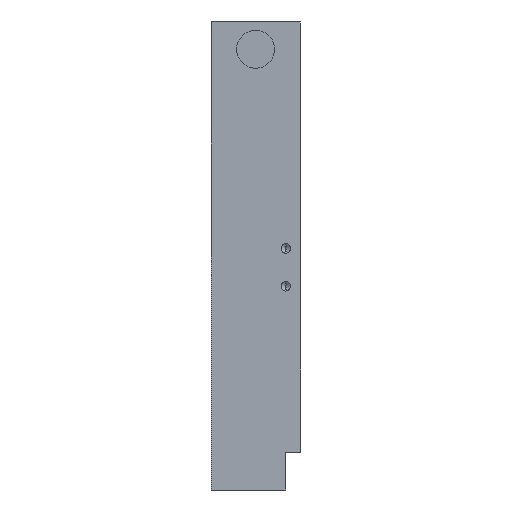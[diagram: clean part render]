
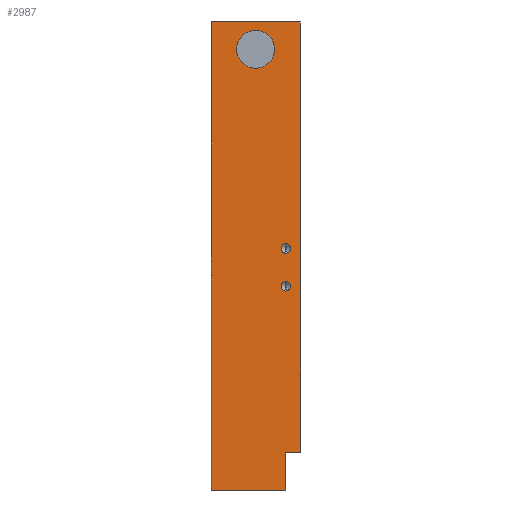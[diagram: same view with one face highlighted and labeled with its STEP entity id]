
A CAD part, left-side view. The second image highlights one B-rep face of the part: STEP entity #2987.
In plain terms, the highlighted planar face has unit normal (-1, 0, 0).
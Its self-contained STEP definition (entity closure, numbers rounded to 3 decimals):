
#70 = VERTEX_POINT ( 'NONE', #4854 ) ;
#98 = VECTOR ( 'NONE', #898, 1000. ) ;
#103 = ORIENTED_EDGE ( 'NONE', *, *, #2353, .F. ) ;
#185 = CARTESIAN_POINT ( 'NONE',  ( -269., 11.95, 54.55 ) ) ;
#286 = VERTEX_POINT ( 'NONE', #2936 ) ;
#294 = EDGE_CURVE ( 'NONE', #2896, #70, #3330, .T. ) ;
#345 = DIRECTION ( 'NONE',  ( 0., 0., -1. ) ) ;
#370 = DIRECTION ( 'NONE',  ( -1., 0., 0. ) ) ;
#426 = DIRECTION ( 'NONE',  ( 0., -1., 0. ) ) ;
#515 = AXIS2_PLACEMENT_3D ( 'NONE', #5807, #1622, #4234 ) ;
#575 = CARTESIAN_POINT ( 'NONE',  ( -269., 0.2, 61.75 ) ) ;
#680 = ORIENTED_EDGE ( 'NONE', *, *, #5942, .F. ) ;
#817 = EDGE_CURVE ( 'NONE', #5252, #5286, #5142, .T. ) ;
#822 = DIRECTION ( 'NONE',  ( 0., 0., -1. ) ) ;
#870 = ORIENTED_EDGE ( 'NONE', *, *, #6086, .F. ) ;
#878 = VERTEX_POINT ( 'NONE', #5158 ) ;
#898 = DIRECTION ( 'NONE',  ( 0., 0., 1. ) ) ;
#921 = LINE ( 'NONE', #575, #3284 ) ;
#928 = CARTESIAN_POINT ( 'NONE',  ( -269., 0.2, 45.75 ) ) ;
#987 = EDGE_CURVE ( 'NONE', #2896, #2168, #4418, .T. ) ;
#992 = VECTOR ( 'NONE', #1877, 1000. ) ;
#1071 = EDGE_CURVE ( 'NONE', #1761, #2468, #2041, .T. ) ;
#1114 = PLANE ( 'NONE',  #515 ) ;
#1146 = EDGE_CURVE ( 'NONE', #1761, #2168, #2371, .T. ) ;
#1251 = VERTEX_POINT ( 'NONE', #3650 ) ;
#1313 = CARTESIAN_POINT ( 'NONE',  ( -269., 4., -61.75 ) ) ;
#1575 = AXIS2_PLACEMENT_3D ( 'NONE', #2583, #2134, #4207 ) ;
#1584 = FACE_BOUND ( 'NONE', #3682, .T. ) ;
#1595 = ORIENTED_EDGE ( 'NONE', *, *, #5721, .F. ) ;
#1622 = DIRECTION ( 'NONE',  ( 1., 0., 0. ) ) ;
#1761 = VERTEX_POINT ( 'NONE', #3618 ) ;
#1789 = CARTESIAN_POINT ( 'NONE',  ( -269., 0., 45.75 ) ) ;
#1877 = DIRECTION ( 'NONE',  ( 0., -1., 0. ) ) ;
#1989 = CARTESIAN_POINT ( 'NONE',  ( -269., 4., 0.75 ) ) ;
#2041 = LINE ( 'NONE', #6604, #98 ) ;
#2108 = AXIS2_PLACEMENT_3D ( 'NONE', #4123, #3599, #3026 ) ;
#2134 = DIRECTION ( 'NONE',  ( -1., 0., 0. ) ) ;
#2168 = VERTEX_POINT ( 'NONE', #2510 ) ;
#2353 = EDGE_CURVE ( 'NONE', #3846, #1251, #5636, .T. ) ;
#2371 = LINE ( 'NONE', #2971, #992 ) ;
#2413 = CARTESIAN_POINT ( 'NONE',  ( -269., 23.7, 61.75 ) ) ;
#2468 = VERTEX_POINT ( 'NONE', #2413 ) ;
#2510 = CARTESIAN_POINT ( 'NONE',  ( -269., 4., -61.75 ) ) ;
#2583 = CARTESIAN_POINT ( 'NONE',  ( -269., 4., 2. ) ) ;
#2680 = CARTESIAN_POINT ( 'NONE',  ( -269., 4., -51.75 ) ) ;
#2896 = VERTEX_POINT ( 'NONE', #2680 ) ;
#2919 = VECTOR ( 'NONE', #5378, 1000. ) ;
#2936 = CARTESIAN_POINT ( 'NONE',  ( -269., 4., -9.25 ) ) ;
#2954 = ORIENTED_EDGE ( 'NONE', *, *, #294, .T. ) ;
#2971 = CARTESIAN_POINT ( 'NONE',  ( -269., 23.7, -61.75 ) ) ;
#2972 = ORIENTED_EDGE ( 'NONE', *, *, #3815, .T. ) ;
#2987 = ADVANCED_FACE ( 'NONE', ( #5017, #4933, #1584, #6528 ), #1114, .F. ) ;
#3026 = DIRECTION ( 'NONE',  ( 0., 0., 1. ) ) ;
#3061 = CARTESIAN_POINT ( 'NONE',  ( -269., 4., 3.25 ) ) ;
#3176 = CIRCLE ( 'NONE', #6659, 1.25 ) ;
#3284 = VECTOR ( 'NONE', #3654, 1000. ) ;
#3330 = LINE ( 'NONE', #4527, #6484 ) ;
#3439 = CARTESIAN_POINT ( 'NONE',  ( -269., 4., -8. ) ) ;
#3504 = EDGE_CURVE ( 'NONE', #6101, #5085, #921, .T. ) ;
#3515 = DIRECTION ( 'NONE',  ( 0., 0., 1. ) ) ;
#3516 = CARTESIAN_POINT ( 'NONE',  ( -269., 11.95, 49.55 ) ) ;
#3599 = DIRECTION ( 'NONE',  ( -1., 0., 0. ) ) ;
#3618 = CARTESIAN_POINT ( 'NONE',  ( -269., 23.7, -61.75 ) ) ;
#3650 = CARTESIAN_POINT ( 'NONE',  ( -269., 11.95, 59.55 ) ) ;
#3653 = ORIENTED_EDGE ( 'NONE', *, *, #987, .F. ) ;
#3654 = DIRECTION ( 'NONE',  ( 0., 0., -1. ) ) ;
#3682 = EDGE_LOOP ( 'NONE', ( #103, #680 ) ) ;
#3723 = CIRCLE ( 'NONE', #5350, 5. ) ;
#3782 = EDGE_LOOP ( 'NONE', ( #3653, #2954, #2972, #1595, #5425, #870, #6618, #3887 ) ) ;
#3815 = EDGE_CURVE ( 'NONE', #70, #4498, #6504, .T. ) ;
#3830 = DIRECTION ( 'NONE',  ( -1., 0., 0. ) ) ;
#3846 = VERTEX_POINT ( 'NONE', #3516 ) ;
#3853 = EDGE_CURVE ( 'NONE', #286, #878, #3176, .T. ) ;
#3887 = ORIENTED_EDGE ( 'NONE', *, *, #1146, .T. ) ;
#3932 = ORIENTED_EDGE ( 'NONE', *, *, #3853, .F. ) ;
#4026 = EDGE_LOOP ( 'NONE', ( #4308, #4412 ) ) ;
#4036 = CIRCLE ( 'NONE', #4629, 1.25 ) ;
#4038 = AXIS2_PLACEMENT_3D ( 'NONE', #185, #3830, #822 ) ;
#4119 = CARTESIAN_POINT ( 'NONE',  ( -269., 23.7, 61.75 ) ) ;
#4123 = CARTESIAN_POINT ( 'NONE',  ( -269., 4., 2. ) ) ;
#4126 = VECTOR ( 'NONE', #426, 1000. ) ;
#4207 = DIRECTION ( 'NONE',  ( 0., 0., 1. ) ) ;
#4234 = DIRECTION ( 'NONE',  ( 0., 0., -1. ) ) ;
#4308 = ORIENTED_EDGE ( 'NONE', *, *, #6252, .F. ) ;
#4370 = CIRCLE ( 'NONE', #1575, 1.25 ) ;
#4412 = ORIENTED_EDGE ( 'NONE', *, *, #817, .F. ) ;
#4418 = LINE ( 'NONE', #1313, #5841 ) ;
#4498 = VERTEX_POINT ( 'NONE', #1789 ) ;
#4527 = CARTESIAN_POINT ( 'NONE',  ( -269., 4., -51.75 ) ) ;
#4553 = DIRECTION ( 'NONE',  ( -1., 0., 0. ) ) ;
#4571 = VECTOR ( 'NONE', #6089, 1000. ) ;
#4572 = CARTESIAN_POINT ( 'NONE',  ( -269., 4., -8. ) ) ;
#4629 = AXIS2_PLACEMENT_3D ( 'NONE', #4572, #4553, #3515 ) ;
#4854 = CARTESIAN_POINT ( 'NONE',  ( -269., 0., -51.75 ) ) ;
#4860 = CARTESIAN_POINT ( 'NONE',  ( -269., 0.2, 45.75 ) ) ;
#4933 = FACE_BOUND ( 'NONE', #5585, .T. ) ;
#4961 = DIRECTION ( 'NONE',  ( 0., 0., -1. ) ) ;
#5017 = FACE_BOUND ( 'NONE', #4026, .T. ) ;
#5085 = VERTEX_POINT ( 'NONE', #928 ) ;
#5088 = DIRECTION ( 'NONE',  ( -1., 0., 0. ) ) ;
#5133 = CARTESIAN_POINT ( 'NONE',  ( -269., 0.2, 61.75 ) ) ;
#5142 = CIRCLE ( 'NONE', #2108, 1.25 ) ;
#5158 = CARTESIAN_POINT ( 'NONE',  ( -269., 4., -6.75 ) ) ;
#5252 = VERTEX_POINT ( 'NONE', #1989 ) ;
#5286 = VERTEX_POINT ( 'NONE', #3061 ) ;
#5350 = AXIS2_PLACEMENT_3D ( 'NONE', #5520, #370, #345 ) ;
#5378 = DIRECTION ( 'NONE',  ( 0., -1., 0. ) ) ;
#5425 = ORIENTED_EDGE ( 'NONE', *, *, #3504, .F. ) ;
#5520 = CARTESIAN_POINT ( 'NONE',  ( -269., 11.95, 54.55 ) ) ;
#5566 = CARTESIAN_POINT ( 'NONE',  ( -269., 0., 61.75 ) ) ;
#5585 = EDGE_LOOP ( 'NONE', ( #5860, #3932 ) ) ;
#5604 = DIRECTION ( 'NONE',  ( 0., -1., 0. ) ) ;
#5636 = CIRCLE ( 'NONE', #4038, 5. ) ;
#5721 = EDGE_CURVE ( 'NONE', #5085, #4498, #6063, .T. ) ;
#5807 = CARTESIAN_POINT ( 'NONE',  ( -269., 23.7, 61.75 ) ) ;
#5841 = VECTOR ( 'NONE', #4961, 1000. ) ;
#5860 = ORIENTED_EDGE ( 'NONE', *, *, #6102, .F. ) ;
#5942 = EDGE_CURVE ( 'NONE', #1251, #3846, #3723, .T. ) ;
#6063 = LINE ( 'NONE', #4860, #2919 ) ;
#6086 = EDGE_CURVE ( 'NONE', #2468, #6101, #6464, .T. ) ;
#6089 = DIRECTION ( 'NONE',  ( 0., 0., 1. ) ) ;
#6101 = VERTEX_POINT ( 'NONE', #5133 ) ;
#6102 = EDGE_CURVE ( 'NONE', #878, #286, #4036, .T. ) ;
#6151 = DIRECTION ( 'NONE',  ( 0., 0., 1. ) ) ;
#6252 = EDGE_CURVE ( 'NONE', #5286, #5252, #4370, .T. ) ;
#6464 = LINE ( 'NONE', #4119, #4126 ) ;
#6484 = VECTOR ( 'NONE', #5604, 1000. ) ;
#6504 = LINE ( 'NONE', #5566, #4571 ) ;
#6528 = FACE_OUTER_BOUND ( 'NONE', #3782, .T. ) ;
#6604 = CARTESIAN_POINT ( 'NONE',  ( -269., 23.7, 61.75 ) ) ;
#6618 = ORIENTED_EDGE ( 'NONE', *, *, #1071, .F. ) ;
#6659 = AXIS2_PLACEMENT_3D ( 'NONE', #3439, #5088, #6151 ) ;
